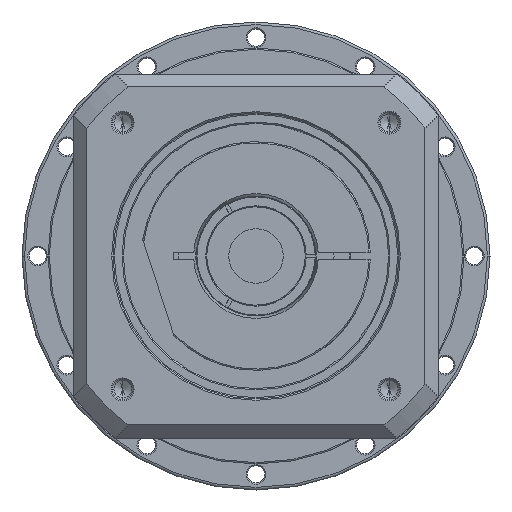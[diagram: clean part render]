
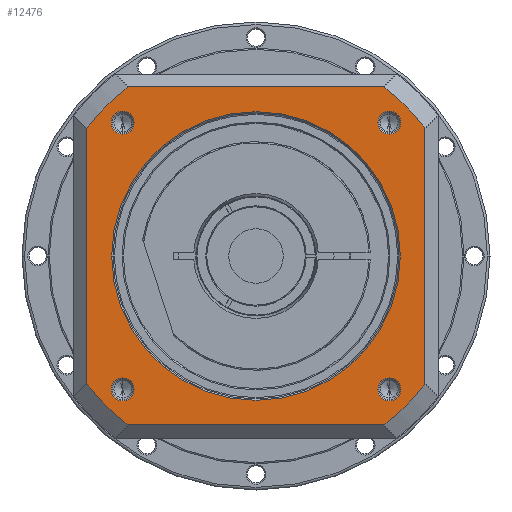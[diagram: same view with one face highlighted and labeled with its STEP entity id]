
A CAD part, left-side view. The second image highlights one B-rep face of the part: STEP entity #12476.
In plain terms, the highlighted planar face has unit normal (-1, 0, 0) as drawn and (0, 0, 1) by its records, which use the part's own axes.
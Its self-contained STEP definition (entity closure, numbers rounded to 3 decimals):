
#11249=CARTESIAN_POINT('',(0.,0.,
56.));
#11250=DIRECTION('',(0.,0.,-1.));
#11251=DIRECTION('',(0.,-1.,0.));
#11252=AXIS2_PLACEMENT_3D('',#11249,#11250,#11251);
#11254=CARTESIAN_POINT('',(0.,0.,
56.));
#11255=DIRECTION('',(0.,0.,-1.));
#11256=DIRECTION('',(0.,1.,0.));
#11257=AXIS2_PLACEMENT_3D('',#11254,#11255,#11256);
#11259=DIRECTION('',(1.,0.,0.));
#11260=VECTOR('',#11259,98.331);
#11261=CARTESIAN_POINT('',(-49.166,65.,56.));
#11262=LINE('',#11261,#11260);
#11263=CARTESIAN_POINT('',(0.,0.,56.));
#11264=DIRECTION('',(0.,0.,1.));
#11265=DIRECTION('',(0.798,0.603,0.));
#11266=AXIS2_PLACEMENT_3D('',#11263,#11264,#11265);
#11268=DIRECTION('',(0.,1.,0.));
#11269=VECTOR('',#11268,98.331);
#11270=CARTESIAN_POINT('',(65.,-49.166,56.));
#11271=LINE('',#11270,#11269);
#11272=DIRECTION('',(1.,0.,0.));
#11273=VECTOR('',#11272,98.331);
#11274=CARTESIAN_POINT('',(-49.166,-65.,56.));
#11275=LINE('',#11274,#11273);
#11276=CARTESIAN_POINT('',(0.,0.,56.));
#11277=DIRECTION('',(0.,0.,1.));
#11278=DIRECTION('',(-0.798,-0.603,0.));
#11279=AXIS2_PLACEMENT_3D('',#11276,#11277,#11278);
#11281=DIRECTION('',(0.,1.,0.));
#11282=VECTOR('',#11281,98.331);
#11283=CARTESIAN_POINT('',(-65.,-49.166,56.));
#11284=LINE('',#11283,#11282);
#11299=CARTESIAN_POINT('',(0.,0.,56.));
#11300=DIRECTION('',(0.,0.,1.));
#11301=DIRECTION('',(-0.603,0.798,0.));
#11302=AXIS2_PLACEMENT_3D('',#11299,#11300,#11301);
#11309=CARTESIAN_POINT('',(0.,0.,56.));
#11310=DIRECTION('',(0.,0.,1.));
#11311=DIRECTION('',(0.603,-0.798,0.));
#11312=AXIS2_PLACEMENT_3D('',#11309,#11310,#11311);
#11326=CARTESIAN_POINT('',(-49.166,65.,56.));
#11418=CARTESIAN_POINT('',(65.,-49.166,56.));
#11446=CARTESIAN_POINT('',(49.166,-65.,56.));
#11486=CARTESIAN_POINT('',(-65.,49.166,56.));
#11495=CARTESIAN_POINT('',(-51.265,51.265,56.));
#11496=DIRECTION('',(0.,0.,1.));
#11497=DIRECTION('',(-1.,0.,0.));
#11498=AXIS2_PLACEMENT_3D('',#11495,#11496,#11497);
#11513=CARTESIAN_POINT('',(-51.265,51.265,56.));
#11514=DIRECTION('',(0.,0.,1.));
#11515=DIRECTION('',(1.,0.,0.));
#11516=AXIS2_PLACEMENT_3D('',#11513,#11514,#11515);
#11549=CARTESIAN_POINT('',(51.265,51.265,56.));
#11550=DIRECTION('',(0.,0.,1.));
#11551=DIRECTION('',(-1.,0.,0.));
#11552=AXIS2_PLACEMENT_3D('',#11549,#11550,#11551);
#11567=CARTESIAN_POINT('',(51.265,51.265,56.));
#11568=DIRECTION('',(0.,0.,1.));
#11569=DIRECTION('',(1.,0.,0.));
#11570=AXIS2_PLACEMENT_3D('',#11567,#11568,#11569);
#11603=CARTESIAN_POINT('',(51.265,-51.265,56.));
#11604=DIRECTION('',(0.,0.,1.));
#11605=DIRECTION('',(-1.,0.,0.));
#11606=AXIS2_PLACEMENT_3D('',#11603,#11604,#11605);
#11621=CARTESIAN_POINT('',(51.265,-51.265,56.));
#11622=DIRECTION('',(0.,0.,1.));
#11623=DIRECTION('',(1.,0.,0.));
#11624=AXIS2_PLACEMENT_3D('',#11621,#11622,#11623);
#11657=CARTESIAN_POINT('',(-51.265,-51.265,56.));
#11658=DIRECTION('',(0.,0.,1.));
#11659=DIRECTION('',(-1.,0.,0.));
#11660=AXIS2_PLACEMENT_3D('',#11657,#11658,#11659);
#11675=CARTESIAN_POINT('',(-51.265,-51.265,56.));
#11676=DIRECTION('',(0.,0.,1.));
#11677=DIRECTION('',(1.,0.,0.));
#11678=AXIS2_PLACEMENT_3D('',#11675,#11676,#11677);
#11765=CARTESIAN_POINT('',(-55.665,51.265,56.));
#11766=CARTESIAN_POINT('',(-46.865,51.265,56.));
#11767=VERTEX_POINT('',#11765);
#11768=VERTEX_POINT('',#11766);
#11791=CARTESIAN_POINT('',(-65.,-49.166,56.));
#11792=CARTESIAN_POINT('',(-49.166,-65.,56.));
#11793=VERTEX_POINT('',#11791);
#11794=VERTEX_POINT('',#11792);
#11795=CARTESIAN_POINT('',(65.,49.166,56.));
#11796=CARTESIAN_POINT('',(49.166,65.,56.));
#11797=VERTEX_POINT('',#11795);
#11798=VERTEX_POINT('',#11796);
#11807=VERTEX_POINT('',#11326);
#11810=VERTEX_POINT('',#11418);
#11811=VERTEX_POINT('',#11446);
#11814=VERTEX_POINT('',#11486);
#11823=CARTESIAN_POINT('',(55.665,51.265,56.));
#11824=CARTESIAN_POINT('',(46.865,51.265,56.));
#11825=VERTEX_POINT('',#11823);
#11826=VERTEX_POINT('',#11824);
#11831=CARTESIAN_POINT('',(55.665,-51.265,56.));
#11832=CARTESIAN_POINT('',(46.865,-51.265,56.));
#11833=VERTEX_POINT('',#11831);
#11834=VERTEX_POINT('',#11832);
#11839=CARTESIAN_POINT('',(-46.865,-51.265,56.));
#11840=CARTESIAN_POINT('',(-55.665,-51.265,56.));
#11841=VERTEX_POINT('',#11839);
#11842=VERTEX_POINT('',#11840);
#11847=CARTESIAN_POINT('',(0.,-55.5,56.));
#11848=CARTESIAN_POINT('',(0.,55.5,
56.));
#11849=VERTEX_POINT('',#11847);
#11850=VERTEX_POINT('',#11848);
#12424=CARTESIAN_POINT('',(0.,0.,56.));
#12425=DIRECTION('',(0.,0.,1.));
#12426=DIRECTION('',(1.,0.,0.));
#12427=AXIS2_PLACEMENT_3D('',#12424,#12425,#12426);
#12428=PLANE('',#12427);
#12430=ORIENTED_EDGE('',*,*,#12429,.F.);
#12432=ORIENTED_EDGE('',*,*,#12431,.T.);
#12434=ORIENTED_EDGE('',*,*,#12433,.F.);
#12436=ORIENTED_EDGE('',*,*,#12435,.F.);
#12438=ORIENTED_EDGE('',*,*,#12437,.F.);
#12440=ORIENTED_EDGE('',*,*,#12439,.F.);
#12442=ORIENTED_EDGE('',*,*,#12441,.F.);
#12444=ORIENTED_EDGE('',*,*,#12443,.T.);
#12445=EDGE_LOOP('',(#12430,#12432,#12434,#12436,#12438,#12440,#12442,#12444));
#12446=FACE_OUTER_BOUND('',#12445,.F.);
#12447=ORIENTED_EDGE('',*,*,#12414,.F.);
#12449=ORIENTED_EDGE('',*,*,#12448,.F.);
#12450=EDGE_LOOP('',(#12447,#12449));
#12451=FACE_BOUND('',#12450,.F.);
#12453=ORIENTED_EDGE('',*,*,#12452,.T.);
#12455=ORIENTED_EDGE('',*,*,#12454,.T.);
#12456=EDGE_LOOP('',(#12453,#12455));
#12457=FACE_BOUND('',#12456,.F.);
#12459=ORIENTED_EDGE('',*,*,#12458,.T.);
#12461=ORIENTED_EDGE('',*,*,#12460,.T.);
#12462=EDGE_LOOP('',(#12459,#12461));
#12463=FACE_BOUND('',#12462,.F.);
#12465=ORIENTED_EDGE('',*,*,#12464,.T.);
#12467=ORIENTED_EDGE('',*,*,#12466,.T.);
#12468=EDGE_LOOP('',(#12465,#12467));
#12469=FACE_BOUND('',#12468,.F.);
#12471=ORIENTED_EDGE('',*,*,#12470,.T.);
#12473=ORIENTED_EDGE('',*,*,#12472,.T.);
#12474=EDGE_LOOP('',(#12471,#12473));
#12475=FACE_BOUND('',#12474,.F.);
#12476=ADVANCED_FACE('',(#12446,#12451,#12457,#12463,#12469,#12475),#12428,.T.);
#11253=CIRCLE('',#11252,55.5);
#11258=CIRCLE('',#11257,55.5);
#11267=CIRCLE('',#11266,81.5);
#11280=CIRCLE('',#11279,81.5);
#11303=CIRCLE('',#11302,81.5);
#11313=CIRCLE('',#11312,81.5);
#11499=CIRCLE('',#11498,4.4);
#11517=CIRCLE('',#11516,4.4);
#11553=CIRCLE('',#11552,4.4);
#11571=CIRCLE('',#11570,4.4);
#11607=CIRCLE('',#11606,4.4);
#11625=CIRCLE('',#11624,4.4);
#11661=CIRCLE('',#11660,4.4);
#11679=CIRCLE('',#11678,4.4);
#12414=EDGE_CURVE('',#11849,#11850,#11253,.T.);
#12429=EDGE_CURVE('',#11807,#11814,#11303,.T.);
#12431=EDGE_CURVE('',#11807,#11798,#11262,.T.);
#12433=EDGE_CURVE('',#11797,#11798,#11267,.T.);
#12435=EDGE_CURVE('',#11810,#11797,#11271,.T.);
#12437=EDGE_CURVE('',#11811,#11810,#11313,.T.);
#12439=EDGE_CURVE('',#11794,#11811,#11275,.T.);
#12441=EDGE_CURVE('',#11793,#11794,#11280,.T.);
#12443=EDGE_CURVE('',#11793,#11814,#11284,.T.);
#12448=EDGE_CURVE('',#11850,#11849,#11258,.T.);
#12452=EDGE_CURVE('',#11767,#11768,#11499,.T.);
#12454=EDGE_CURVE('',#11768,#11767,#11517,.T.);
#12458=EDGE_CURVE('',#11826,#11825,#11553,.T.);
#12460=EDGE_CURVE('',#11825,#11826,#11571,.T.);
#12464=EDGE_CURVE('',#11834,#11833,#11607,.T.);
#12466=EDGE_CURVE('',#11833,#11834,#11625,.T.);
#12470=EDGE_CURVE('',#11842,#11841,#11661,.T.);
#12472=EDGE_CURVE('',#11841,#11842,#11679,.T.);
